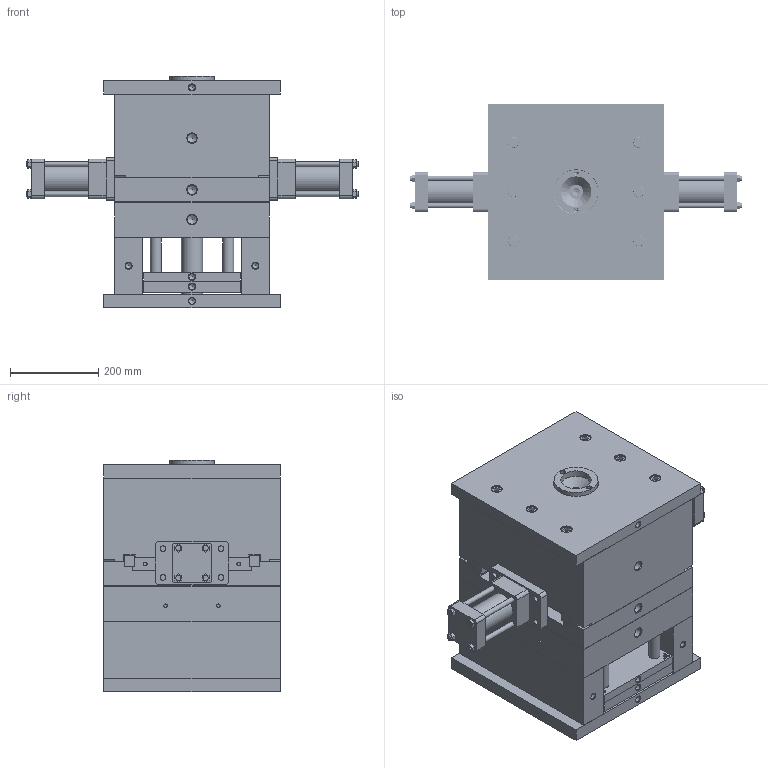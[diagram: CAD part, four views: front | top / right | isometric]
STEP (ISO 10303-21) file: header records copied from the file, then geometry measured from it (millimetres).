
FILE_DESCRIPTION(/* description */ (''),/* implementation_level */ '2;1');
FILE_NAME(/* name */ '16697-1',/* time_stamp */ '2017-11-24T11:10:03+08:00',/* author */ (''),/* organization */ (''),/* preprocessor_version */ 'ST-DEVELOPER v9',/* originating_system */ 'UGS - NX 4.0',/* authorisation */ '');
FILE_SCHEMA (('AUTOMOTIVE_DESIGN { 1 0 10303 214 1 1 1 1 }'));
Products named in the file (1): AdmiAB1Fwj97
Bounding box: 754 x 400 x 525 mm (x, y, z)
Volume: 66381400.6 mm3; surface area: 5269912.1 mm2
Topology: 69 solids, 69 shells, 4504 faces, 11602 edges, 7641 vertices
Faces by surface type: plane 1895, cylinder 1275, extrusion 624, cone 286, bspline 195, torus 158, sphere 71
Full cylindrical faces by diameter (mm): 5.2 x30, 6.6 x2, 7 x28, 8 x46, 8.5 x22, 8.502 x4, 8.52 x4, 10 x8, 11 x40, 11.4 x8, 12 x18, 13 x8, 14 x24, 14.02 x12, 16 x22, 17 x10, 17.4 x26, 21 x6, 24 x14, 25 x15, 25.4 x12, 30 x17, 30.016 x4, 30.2 x4, 32 x1, 35 x4, 36.4 x4, 40 x6, 40.016 x4, 42 x12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
Entity records: 236269 total; most frequent: CARTESIAN_POINT 107025, ORIENTED_EDGE 21144, DIRECTION 18448, EDGE_CURVE 10572, VERTEX_POINT 7420, AXIS2_PLACEMENT_3D 6753, EDGE_LOOP 5972, VECTOR 4942
